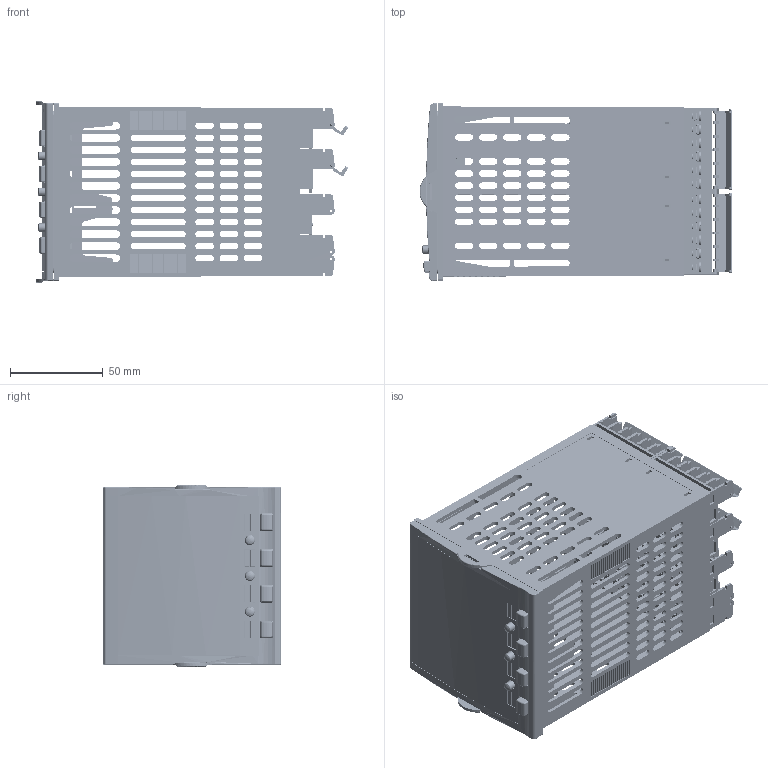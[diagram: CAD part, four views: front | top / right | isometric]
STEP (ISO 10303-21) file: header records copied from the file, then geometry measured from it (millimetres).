
FILE_DESCRIPTION((''),'2;1');
FILE_NAME('2404_IGES','2012-01-10T',('chrisloe'),(''),'PRO/ENGINEER BY PARAMETRIC TECHNOLOGY CORPORATION, 2010180','PRO/ENGINEER BY PARAMETRIC TECHNOLOGY CORPORATION, 2010180','');
FILE_SCHEMA(('CONFIG_CONTROL_DESIGN'));
Length unit declared in the file: millimetre
Products named in the file (1): 2404_IGES
Bounding box: 169.01 x 96.36 x 97.9 mm (x, y, z)
Volume: 167802.1 mm3; surface area: 262027.5 mm2
Topology: 8 solids, 97 shells, 14632 faces, 40544 edges, 25979 vertices
Faces by surface type: plane 11272, cylinder 2653, cone 364, bspline 190, torus 139, sphere 14
Entity records: 481355 total; most frequent: CARTESIAN_POINT 111831, ORIENTED_EDGE 80844, DIRECTION 70427, EDGE_CURVE 40482, VECTOR 31197, LINE 31197, VERTEX_POINT 25975, AXIS2_PLACEMENT_3D 19615
